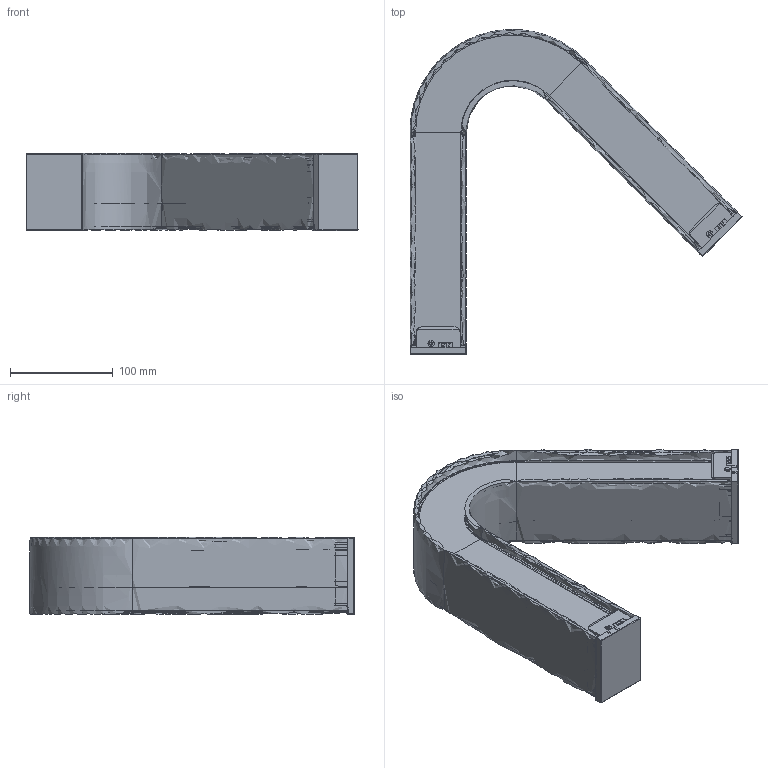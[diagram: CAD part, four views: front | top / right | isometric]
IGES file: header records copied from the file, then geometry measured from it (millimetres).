
Global section: file name: C:\Users\info\Desktop\CRIS\05. NEW PRODUCT\LUMINARIA KISS\3D para web\KISS A45 - IGS.igs; native system: Rhinoceros ( Feb 27 2019 ); preprocessor: Trout Lake IGES 012 Feb 27 2019; date: 260427.135302; units: millimetre
Bounding box: 323.65 x 316.74 x 75.16 mm (x, y, z)
Surface area: 471753.6 mm2 (no closed solid volume)
Topology: 0 solids, 0 shells, 1922 faces, 17364 edges, 17358 vertices
Faces by surface type: bspline 1922
